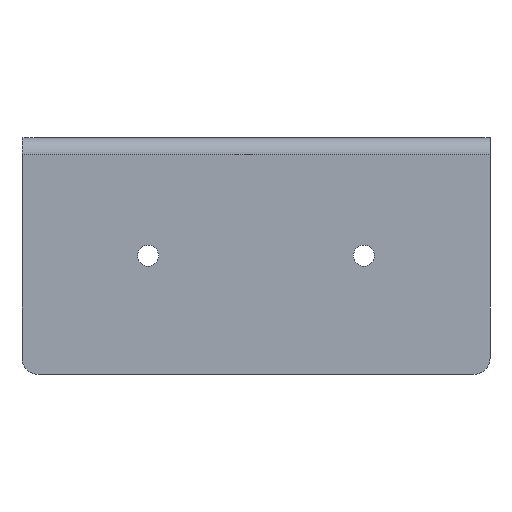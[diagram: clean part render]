
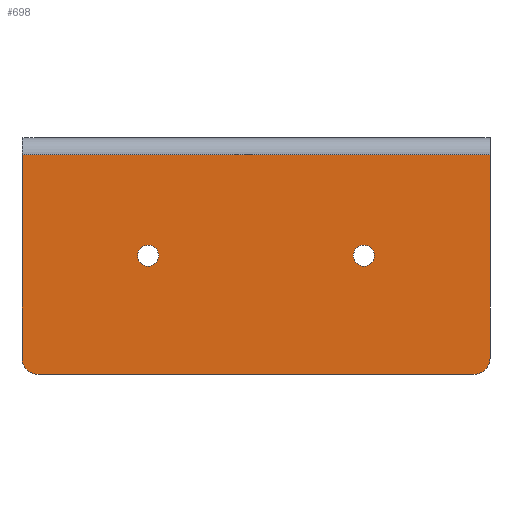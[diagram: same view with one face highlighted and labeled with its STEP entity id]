
A CAD part, left-side view. The second image highlights one B-rep face of the part: STEP entity #698.
In plain terms, the highlighted planar face has unit normal (-1, 0, 0).
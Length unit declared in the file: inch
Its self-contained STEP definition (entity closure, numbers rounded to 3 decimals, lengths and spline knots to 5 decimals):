
#9=DIRECTION('',(0.,0.,1.));
#10=VECTOR('',#9,1.51);
#11=CARTESIAN_POINT('',(0.,0.,-1.635));
#12=LINE('',#11,#10);
#183=DIRECTION('',(0.,0.,1.));
#184=VECTOR('',#183,1.51);
#185=CARTESIAN_POINT('',(0.,3.47,-1.635));
#186=LINE('',#185,#184);
#195=DIRECTION('',(0.,1.,0.));
#196=VECTOR('',#195,3.47);
#197=CARTESIAN_POINT('',(0.,0.,-0.125));
#198=LINE('',#197,#196);
#199=CARTESIAN_POINT('',(0.,2.535,-0.875));
#200=DIRECTION('',(1.,0.,0.));
#201=DIRECTION('',(0.,0.,-1.));
#202=AXIS2_PLACEMENT_3D('',#199,#200,#201);
#204=CARTESIAN_POINT('',(0.,2.535,-0.875));
#205=DIRECTION('',(1.,0.,0.));
#206=DIRECTION('',(0.,0.,1.));
#207=AXIS2_PLACEMENT_3D('',#204,#205,#206);
#209=CARTESIAN_POINT('',(0.,0.935,-0.875));
#210=DIRECTION('',(1.,0.,0.));
#211=DIRECTION('',(0.,0.,-1.));
#212=AXIS2_PLACEMENT_3D('',#209,#210,#211);
#214=CARTESIAN_POINT('',(0.,0.935,-0.875));
#215=DIRECTION('',(1.,0.,0.));
#216=DIRECTION('',(0.,0.,1.));
#217=AXIS2_PLACEMENT_3D('',#214,#215,#216);
#219=DIRECTION('',(0.,1.,0.));
#220=VECTOR('',#219,3.23);
#221=CARTESIAN_POINT('',(0.,0.12,-1.755));
#222=LINE('',#221,#220);
#276=CARTESIAN_POINT('',(0.,3.35,-1.635));
#277=DIRECTION('',(-1.,0.,0.));
#278=DIRECTION('',(0.,1.,0.));
#279=AXIS2_PLACEMENT_3D('',#276,#277,#278);
#289=CARTESIAN_POINT('',(0.,0.12,-1.635));
#290=DIRECTION('',(-1.,0.,0.));
#291=DIRECTION('',(0.,0.,-1.));
#292=AXIS2_PLACEMENT_3D('',#289,#290,#291);
#307=CARTESIAN_POINT('',(0.,0.,-0.125));
#309=VERTEX_POINT('',#307);
#311=CARTESIAN_POINT('',(0.,3.47,-0.125));
#313=VERTEX_POINT('',#311);
#355=CARTESIAN_POINT('',(0.,2.535,-0.953));
#356=CARTESIAN_POINT('',(0.,2.535,-0.797));
#357=VERTEX_POINT('',#355);
#358=VERTEX_POINT('',#356);
#359=CARTESIAN_POINT('',(0.,0.935,-0.953));
#360=CARTESIAN_POINT('',(0.,0.935,-0.797));
#361=VERTEX_POINT('',#359);
#362=VERTEX_POINT('',#360);
#372=CARTESIAN_POINT('',(0.,3.35,-1.755));
#374=VERTEX_POINT('',#372);
#377=CARTESIAN_POINT('',(0.,3.47,-1.635));
#378=VERTEX_POINT('',#377);
#387=CARTESIAN_POINT('',(0.,0.12,-1.755));
#389=VERTEX_POINT('',#387);
#391=CARTESIAN_POINT('',(0.,0.,-1.635));
#392=VERTEX_POINT('',#391);
#670=CARTESIAN_POINT('',(0.,0.,-1.755));
#671=DIRECTION('',(-1.,0.,0.));
#672=DIRECTION('',(0.,0.,1.));
#673=AXIS2_PLACEMENT_3D('',#670,#671,#672);
#674=PLANE('',#673);
#676=ORIENTED_EDGE('',*,*,#675,.F.);
#677=ORIENTED_EDGE('',*,*,#647,.T.);
#678=ORIENTED_EDGE('',*,*,#663,.F.);
#679=ORIENTED_EDGE('',*,*,#408,.F.);
#681=ORIENTED_EDGE('',*,*,#680,.F.);
#683=ORIENTED_EDGE('',*,*,#682,.T.);
#684=EDGE_LOOP('',(#676,#677,#678,#679,#681,#683));
#685=FACE_OUTER_BOUND('',#684,.F.);
#687=ORIENTED_EDGE('',*,*,#686,.F.);
#689=ORIENTED_EDGE('',*,*,#688,.F.);
#690=EDGE_LOOP('',(#687,#689));
#691=FACE_BOUND('',#690,.F.);
#693=ORIENTED_EDGE('',*,*,#692,.F.);
#695=ORIENTED_EDGE('',*,*,#694,.F.);
#696=EDGE_LOOP('',(#693,#695));
#697=FACE_BOUND('',#696,.F.);
#698=ADVANCED_FACE('',(#685,#691,#697),#674,.T.);
#203=CIRCLE('',#202,0.078);
#208=CIRCLE('',#207,0.078);
#213=CIRCLE('',#212,0.078);
#218=CIRCLE('',#217,0.078);
#280=CIRCLE('',#279,0.12);
#293=CIRCLE('',#292,0.12);
#408=EDGE_CURVE('',#392,#309,#12,.T.);
#647=EDGE_CURVE('',#378,#313,#186,.T.);
#663=EDGE_CURVE('',#309,#313,#198,.T.);
#675=EDGE_CURVE('',#378,#374,#280,.T.);
#680=EDGE_CURVE('',#389,#392,#293,.T.);
#682=EDGE_CURVE('',#389,#374,#222,.T.);
#686=EDGE_CURVE('',#361,#362,#213,.T.);
#688=EDGE_CURVE('',#362,#361,#218,.T.);
#692=EDGE_CURVE('',#357,#358,#203,.T.);
#694=EDGE_CURVE('',#358,#357,#208,.T.);
